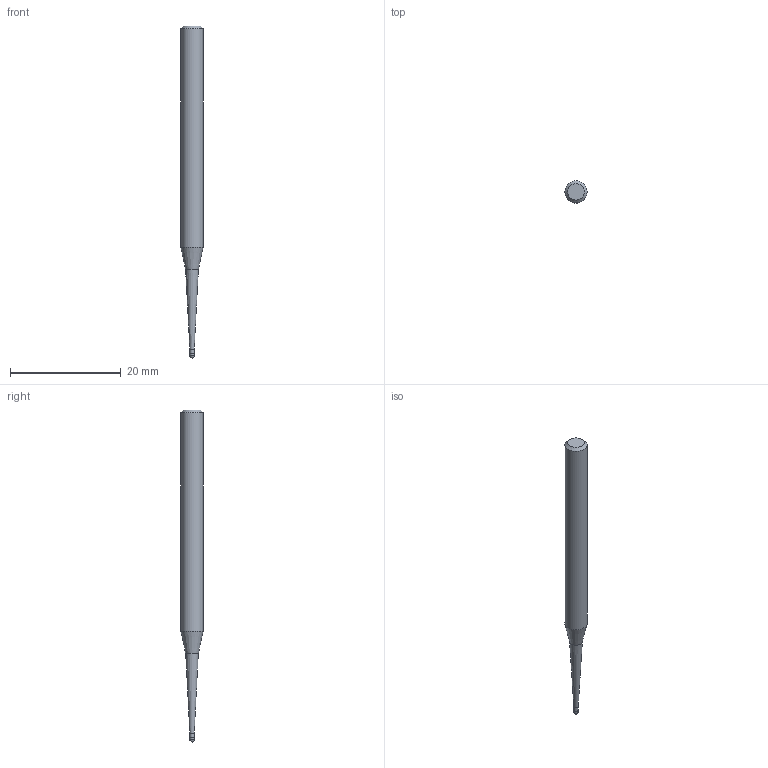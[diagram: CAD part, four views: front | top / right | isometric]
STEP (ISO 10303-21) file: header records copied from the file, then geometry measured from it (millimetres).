
FILE_DESCRIPTION((''),'2;1');
FILE_NAME('C:\Users\nsx150\AppData\Local\Temp\Mastercam 2021\SNAKH10GOD\TEMP.step','2021-10-21T13:32:02',(''),(''),'STEP Write','Mastercam 2021 ... CNC Software, Inc.','');
FILE_SCHEMA(('AUTOMOTIVE_DESIGN'));
Length unit declared in the file: millimetre
Products named in the file (1): None
Bounding box: 4 x 4 x 60 mm (x, y, z)
Volume: 563.3 mm3; surface area: 626.9 mm2
Topology: 2 solids, 2 shells, 10 faces, 16 edges, 9 vertices
Faces by surface type: plane 3, cylinder 3, cone 3, sphere 1
Full cylindrical faces by diameter (mm): 0.785 x1, 0.8 x1, 4 x1
Entity records: 232 total; most frequent: DIRECTION 40, CARTESIAN_POINT 28, AXIS2_PLACEMENT_3D 20, ORIENTED_EDGE 16, EDGE_LOOP 16, STYLED_ITEM 13, ADVANCED_FACE 10, FACE_BOUND 9
